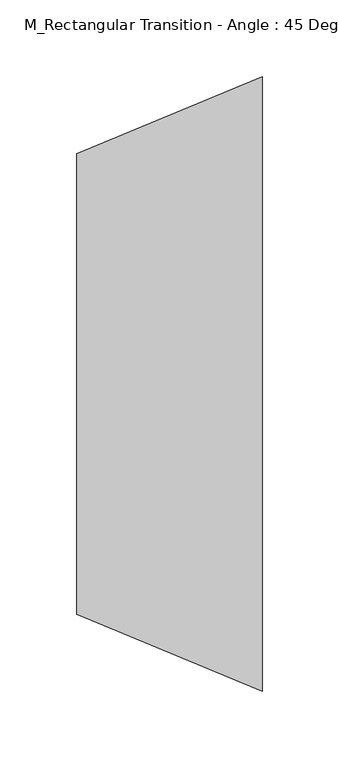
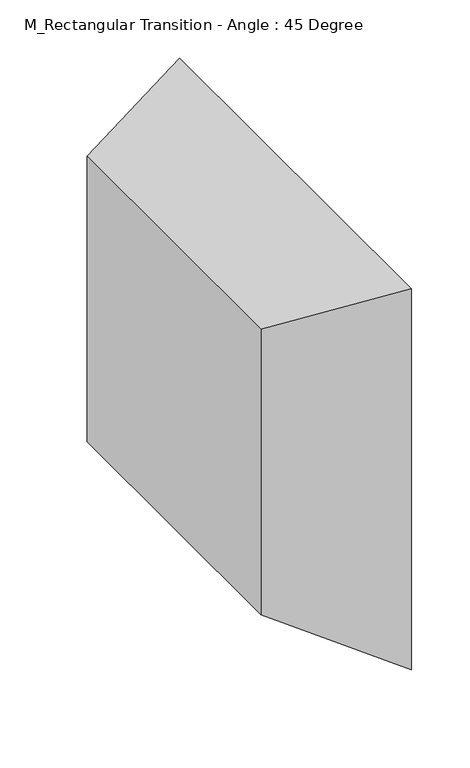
"""IFC4 building model written with IfcOpenShell, lengths in millimetres: duct fitting geometry, M_Rectangular Transition - Angle : 45 Degree."""

from ifc_helpers import new_model, si_unit, origin, place, context, project, spatial, faceted_brep, source, transform, mapped, element, save


def m_rectangular_transition_angle_45_degree_b3f65c7f(model_context):
    return source(origin(), model_context, "Body", "Brep", [
        faceted_brep([(120.7106781, -200.0, 180.5), (120.7106781, -200.0, -219.5), (120.7106781, 200.0, -219.5), (120.7106781, 200.0, 180.5), (0.0, -150.0, 150.0), (0.0, 150.0, 150.0), (0.0, 150.0, -150.0), (0.0, -150.0, -150.0)], [[[0, 1, 2, 3]], [[4, 5, 6, 7]], [[4, 7, 1, 0]], [[7, 6, 2, 1]], [[6, 5, 3, 2]], [[5, 4, 0, 3]]]),
        faceted_brep([(120.7106781, -200.0, 180.5), (120.7106781, -200.0, -219.5), (120.7106781, 200.0, -219.5), (120.7106781, 200.0, 180.5), (0.0, -150.0, 150.0), (0.0, 150.0, 150.0), (0.0, 150.0, -150.0), (0.0, -150.0, -150.0)], [[[0, 1, 2, 3]], [[4, 5, 6, 7]], [[4, 7, 1, 0]], [[7, 6, 2, 1]], [[6, 5, 3, 2]], [[5, 4, 0, 3]]]),
        faceted_brep([(120.7106781, -200.0, 180.5), (120.7106781, -200.0, -219.5), (120.7106781, 200.0, -219.5), (120.7106781, 200.0, 180.5), (0.0, -150.0, 150.0), (0.0, 150.0, 150.0), (0.0, 150.0, -150.0), (0.0, -150.0, -150.0)], [[[0, 1, 2, 3]], [[4, 5, 6, 7]], [[4, 7, 1, 0]], [[7, 6, 2, 1]], [[6, 5, 3, 2]], [[5, 4, 0, 3]]]),
    ])


if __name__ == "__main__":
    model = new_model("IFC4")
    model_context = context("Model", 3, world=origin())
    ifc_project = project(units=[si_unit("LENGTHUNIT", "METRE", prefix="MILLI")], contexts=[model_context])
    site = spatial("IfcSite", under=ifc_project)
    building = spatial("IfcBuilding", under=site)
    placement = place(None, origin())
    m_rectangular_transition_angle_45_degree_shape = m_rectangular_transition_angle_45_degree_b3f65c7f(model_context)
    element("IfcDuctFitting", 1, ObjectType="M_Rectangular Transition - Angle : 45 Degree", at=placement, inside=building, context=model_context, shape_type="MappedRepresentation", body=[
        mapped(m_rectangular_transition_angle_45_degree_shape, transform((0.0, 0.0, 0.0), x_axis=(1.0, 0.0, 0.0), y_axis=(0.0, 1.0, 0.0), z_axis=(0.0, 0.0, 1.0))),
    ])
    save(model, "model.ifc")
